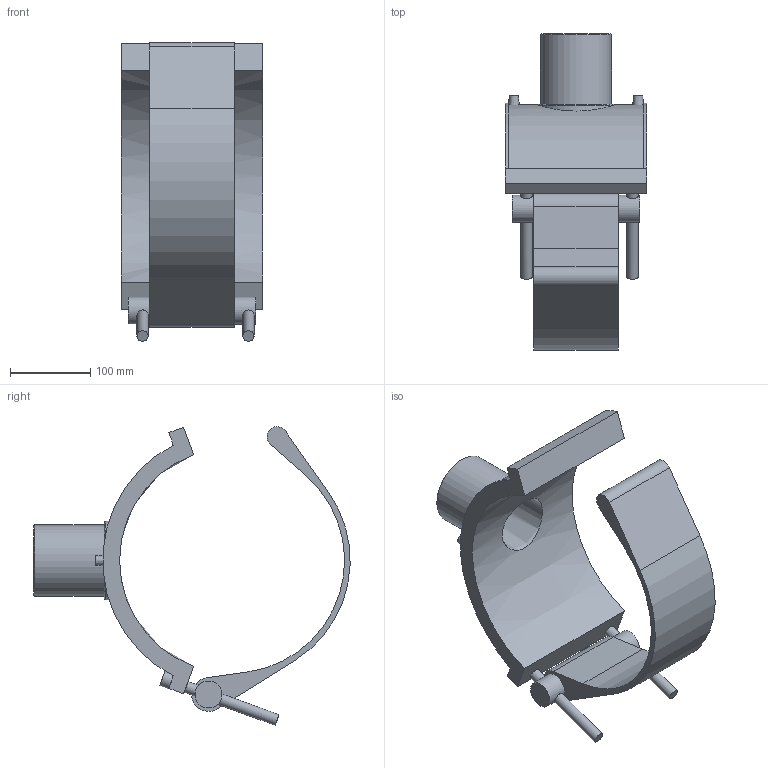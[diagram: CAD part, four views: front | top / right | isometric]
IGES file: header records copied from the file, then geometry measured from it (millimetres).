
Global section: file name: 5958DB03100030.ipt; native system: Autodesk Inventor 2019; preprocessor: unknown; author: KIM; date: 20210830.101326; units: inch
Bounding box: 176.02 x 394.45 x 372.36 mm (x, y, z)
Volume: 2202181.6 mm3; surface area: 343326.5 mm2
Topology: 1 solids, 1 shells, 60 faces, 136 edges, 92 vertices
Faces by surface type: plane 32, cylinder 19, revolution 6, cone 3
Full cylindrical faces by diameter (mm): 4 x2, 14.03 x4, 19.642 x2, 33.672 x2, 88.7 x1
